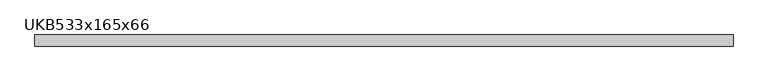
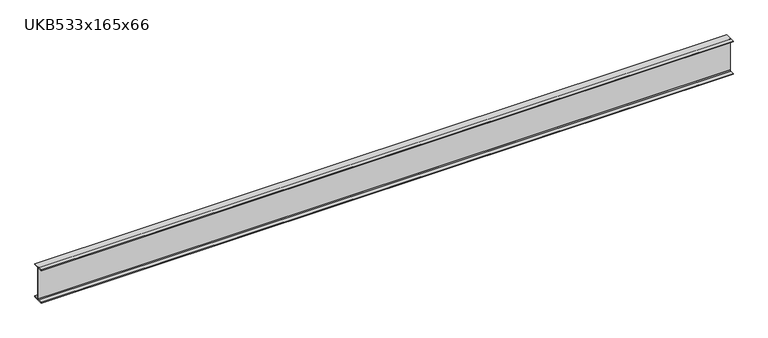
"""IFC4 building model written with IfcOpenShell, lengths in millimetres: beam geometry, UKB-UK Beams : UKB533x165x66."""

from ifc_helpers import new_model, si_unit, point, frame, frame_2d, origin, place, context, project, spatial, polyline, circle_curve, trimmed, segment, composite_curve, outline, extrude, source, transform, mapped, element, save


def ukb533x165x66_f7286a11(model_context):
    return source(origin(), model_context, "Body", "SweptSolid", [
        extrude(outline(composite_curve([segment(polyline([(82.55, -250.95), (82.55, -262.35), (-82.55, -262.35), (-82.55, -250.95), (-17.15, -250.95)]), True, "CONTINUOUS"), segment(trimmed(circle_curve(frame_2d((-17.15, -238.25)), 12.7), [point((-17.15, -250.95))], [point((-4.45, -238.25))], True, "CARTESIAN"), True, "CONTINUOUS"), segment(polyline([(-4.45, -238.25), (-4.45, 238.25)]), True, "CONTINUOUS"), segment(trimmed(circle_curve(frame_2d((-17.15, 238.25)), 12.7), [point((-4.45, 238.25))], [point((-17.15, 250.95))], True, "CARTESIAN"), True, "CONTINUOUS"), segment(polyline([(-17.15, 250.95), (-82.55, 250.95), (-82.55, 262.35), (82.55, 262.35), (82.55, 250.95), (17.15, 250.95)]), True, "CONTINUOUS"), segment(trimmed(circle_curve(frame_2d((17.15, 238.25)), 12.7), [point((17.15, 250.95))], [point((4.45, 238.25))], True, "CARTESIAN"), True, "CONTINUOUS"), segment(polyline([(4.45, 238.25), (4.45, -238.25)]), True, "CONTINUOUS"), segment(trimmed(circle_curve(frame_2d((17.15, -238.25)), 12.7), [point((4.45, -238.25))], [point((17.15, -250.95))], True, "CARTESIAN"), True, "CONTINUOUS"), segment(polyline([(17.15, -250.95), (82.55, -250.95)]), True, "CONTINUOUS")], self_intersect=False)), frame((-5169.0, 0.0, 0.0), z_axis=(1.0, 0.0, 0.0), x_axis=(0.0, 1.0, 0.0)), (0.0, 0.0, 1.0), 10338.0),
    ])


if __name__ == "__main__":
    model = new_model("IFC4")
    model_context = context("Model", 3, world=origin())
    ifc_project = project(units=[si_unit("LENGTHUNIT", "METRE", prefix="MILLI")], contexts=[model_context])
    site = spatial("IfcSite", under=ifc_project)
    building = spatial("IfcBuilding", under=site)
    placement = place(None, origin())
    ukb533x165x66_shape = ukb533x165x66_f7286a11(model_context)
    element("IfcBeam", 1, ObjectType="UKB-UK Beams : UKB533x165x66", at=placement, inside=building, context=model_context, shape_type="MappedRepresentation", body=[
        mapped(ukb533x165x66_shape, transform((0.0, 0.0, 0.0), x_axis=(1.0, 0.0, 0.0), y_axis=(0.0, 1.0, 0.0), z_axis=(0.0, 0.0, 1.0))),
    ])
    save(model, "model.ifc")
